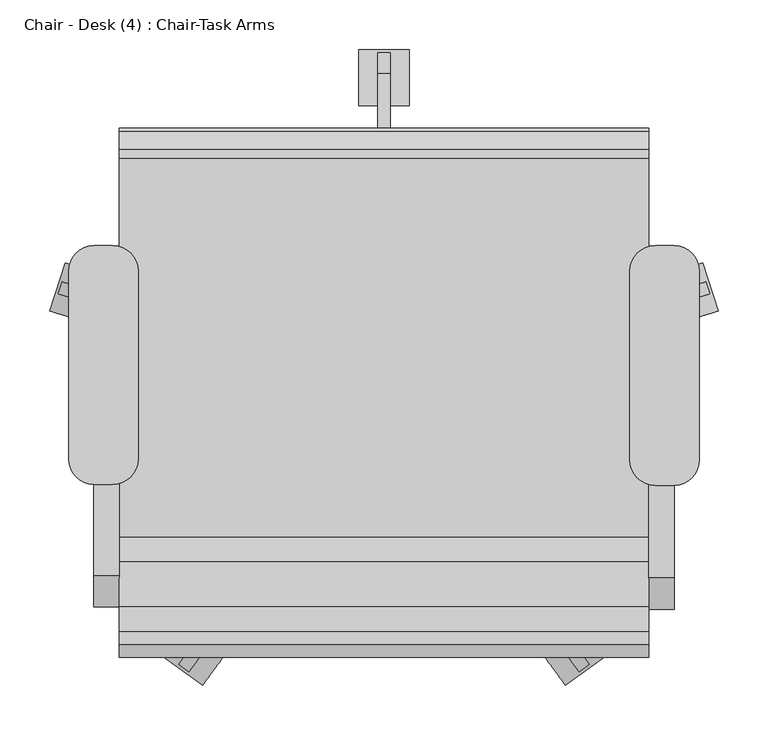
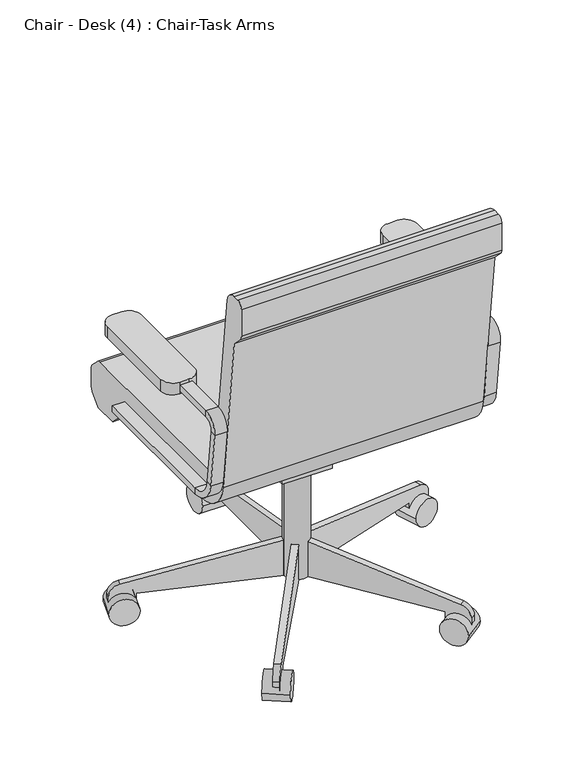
"""IFC4 building model written with IfcOpenShell, lengths in millimetres: furniture geometry, Chair - Desk (4) : Chair-Task Arms."""

from ifc_helpers import new_model, si_unit, point, frame, frame_2d, origin, place, context, project, spatial, polyline, circle_curve, trimmed, segment, composite_curve, outline, extrude, source, transform, mapped, element, save
from ifc_brep_helpers import plane_surface, cylinder_surface, revolved_surface, advanced_brep


def chair_desk_4_chair_task_arms_3b363349(model_context):
    return source(origin(), model_context, "Body", "SolidModel", [
        extrude(outline(composite_curve([segment(polyline([(433.0908197, -74.2028048), (414.0408197, -74.2028048)]), True, "CONTINUOUS"), segment(trimmed(circle_curve(frame_2d((414.0408197, -48.8028048)), 25.4), [point((414.0408197, -74.2028048))], [point((388.6408197, -48.8028048))], False, "CARTESIAN"), True, "CONTINUOUS"), segment(polyline([(388.6408197, -48.8028048), (388.6408197, 141.6319091)]), True, "CONTINUOUS"), segment(trimmed(circle_curve(frame_2d((414.0408197, 141.6319091)), 25.4), [point((388.6408197, 141.6319091))], [point((414.0408197, 167.0319091))], False, "CARTESIAN"), True, "CONTINUOUS"), segment(polyline([(414.0408197, 167.0319091), (433.0908197, 167.0319091)]), True, "CONTINUOUS"), segment(trimmed(circle_curve(frame_2d((433.0908197, 141.6319091)), 25.4), [point((433.0908197, 167.0319091))], [point((458.4908197, 141.6319091))], False, "CARTESIAN"), True, "CONTINUOUS"), segment(polyline([(458.4908197, 141.6319091), (458.4908197, -48.8028048)]), True, "CONTINUOUS"), segment(trimmed(circle_curve(frame_2d((433.0908197, -48.8028048)), 25.4), [point((458.4908197, -48.8028048))], [point((433.0908197, -74.2028048))], False, "CARTESIAN"), True, "CONTINUOUS")], self_intersect=False)), frame((0.0, 0.0, 596.9), z_axis=(0.0, 0.0, 1.0), x_axis=(1.0, 0.0, 0.0)), (0.0, 0.0, 1.0), 25.4),
        extrude(outline(composite_curve([segment(polyline([(-132.0591803, -73.1575984), (-151.1091803, -73.1575984)]), True, "CONTINUOUS"), segment(trimmed(circle_curve(frame_2d((-151.1091803, -47.7575984)), 25.4), [point((-151.1091803, -73.1575984))], [point((-176.5091803, -47.7575984))], False, "CARTESIAN"), True, "CONTINUOUS"), segment(polyline([(-176.5091803, -47.7575984), (-176.5091803, 141.6319091)]), True, "CONTINUOUS"), segment(trimmed(circle_curve(frame_2d((-151.1091803, 141.6319091)), 25.4), [point((-176.5091803, 141.6319091))], [point((-151.1091803, 167.0319091))], False, "CARTESIAN"), True, "CONTINUOUS"), segment(polyline([(-151.1091803, 167.0319091), (-132.0591803, 167.0319091)]), True, "CONTINUOUS"), segment(trimmed(circle_curve(frame_2d((-132.0591803, 141.6319091)), 25.4), [point((-132.0591803, 167.0319091))], [point((-106.6591803, 141.6319091))], False, "CARTESIAN"), True, "CONTINUOUS"), segment(polyline([(-106.6591803, 141.6319091), (-106.6591803, -47.7575984)]), True, "CONTINUOUS"), segment(trimmed(circle_curve(frame_2d((-132.0591803, -47.7575984)), 25.4), [point((-106.6591803, -47.7575984))], [point((-132.0591803, -73.1575984))], False, "CARTESIAN"), True, "CONTINUOUS")], self_intersect=False)), frame((0.0, 0.0, 596.9), z_axis=(0.0, 0.0, 1.0), x_axis=(1.0, 0.0, 0.0)), (0.0, 0.0, 1.0), 25.4),
        advanced_brep(
        [(-151.1091803, 167.0319091, 412.75), (-151.1091803, 167.0319091, 425.45), (-125.7091803, 167.0319091, 425.45), (-125.7091803, 167.0319091, 412.75), (-151.1091803, -126.2388651, 412.75), (-151.1091803, -126.2388651, 425.45), (-125.7091803, -126.2388651, 425.45), (-125.7091803, -126.2388651, 412.75), (-151.1091803, -170.3844094, 464.7064065), (-151.1091803, -182.9974221, 463.2225227), (-125.7091803, -170.3844094, 464.7064065), (-125.7091803, -182.9974221, 463.2225227), (-151.1091803, -196.7936301, 580.4902904), (-151.1091803, -184.1806174, 581.9741742), (-125.7091803, -184.1806174, 581.9741742), (-125.7091803, -196.7936301, 580.4902904), (-151.1091803, -165.2610984, 603.25), (-151.1091803, -165.2610984, 615.95), (-125.7091803, -165.2610984, 603.25), (-125.7091803, -165.2610984, 615.95), (-151.1091803, 18.9459016, 615.95), (-125.7091803, 18.9459016, 615.95), (-125.7091803, 18.9459016, 603.25), (-151.1091803, 18.9459016, 603.25)],
        [
            (0, 1),
            (1, 2),
            (2, 3),
            (3, 0),
            (0, 4),
            (4, 5),
            (5, 1),
            (5, 6),
            (6, 2),
            (6, 7),
            (7, 3),
            (7, 4),
            (8, 5, circle_curve(frame((-151.1091803, -126.2388651, 469.9), z_axis=(1.0, 0.0, 0.0), x_axis=(0.0, 0.0, -1.0)), 44.45)),
            (4, 9, circle_curve(frame((-151.1091803, -126.2388651, 469.9), z_axis=(-1.0, 0.0, 0.0), x_axis=(0.0, 0.0, -1.0)), 57.15)),
            (9, 8),
            (10, 6, circle_curve(frame((-125.7091803, -126.2388651, 469.9), z_axis=(1.0, 0.0, 0.0), x_axis=(0.0, 0.0, -1.0)), 44.45)),
            (8, 10),
            (11, 7, circle_curve(frame((-125.7091803, -126.2388651, 469.9), z_axis=(1.0, 0.0, 0.0), x_axis=(0.0, 0.0, -1.0)), 57.15)),
            (10, 11),
            (11, 9),
            (9, 12),
            (12, 13),
            (13, 8),
            (13, 14),
            (14, 10),
            (14, 15),
            (15, 11),
            (15, 12),
            (16, 13, circle_curve(frame((-151.1091803, -165.2610984, 584.2), z_axis=(1.0, 0.0, 0.0), x_axis=(0.0, -0.9931506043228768, -0.11684124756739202)), 19.05)),
            (12, 17, circle_curve(frame((-151.1091803, -165.2610984, 584.2), z_axis=(-1.0, 0.0, 0.0), x_axis=(0.0, -0.9931506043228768, -0.11684124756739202)), 31.75)),
            (17, 16),
            (18, 14, circle_curve(frame((-125.7091803, -165.2610984, 584.2), z_axis=(1.0, 0.0, 0.0), x_axis=(0.0, -0.9931506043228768, -0.11684124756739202)), 19.05)),
            (16, 18),
            (19, 15, circle_curve(frame((-125.7091803, -165.2610984, 584.2), z_axis=(1.0, 0.0, 0.0), x_axis=(0.0, -0.9931506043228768, -0.11684124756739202)), 31.75)),
            (18, 19),
            (19, 17),
            (20, 21),
            (21, 22),
            (22, 23),
            (23, 20),
            (17, 20),
            (23, 16),
            (22, 18),
            (21, 19),
        ],
        [
            plane_surface(frame((-152.608212, 167.0319091, 419.1), z_axis=(0.0, 1.0, 0.0), x_axis=(0.0, 0.0, -1.0))),
            plane_surface(frame((-151.1091803, 167.0319091, 412.75), z_axis=(-1.0, 0.0, 0.0), x_axis=(0.0, -1.0, 0.0))),
            plane_surface(frame((-151.1091803, 167.0319091, 425.45), z_axis=(0.0, 0.0, 1.0), x_axis=(0.0, -1.0, 0.0))),
            plane_surface(frame((-125.7091803, 167.0319091, 425.45), z_axis=(1.0, 0.0, 0.0), x_axis=(0.0, -1.0, 0.0))),
            plane_surface(frame((-125.7091803, 167.0319091, 412.75), z_axis=(0.0, 0.0, -1.0), x_axis=(0.0, -1.0, 0.0))),
            plane_surface(frame((-151.1091803, -126.2388651, 469.9), z_axis=(-1.0, 0.0, 0.0), x_axis=(0.0, 0.0, -1.0))),
            revolved_surface(polyline([(-151.1091803, -126.2388651, 425.45), (-125.7091803, -126.2388651, 425.45)]), (-138.4091803, -126.2388651, 469.9), (-1.0, 0.0, 0.0)),
            plane_surface(frame((-125.7091803, -126.2388651, 469.9), z_axis=(1.0, 0.0, 0.0), x_axis=(0.0, 0.0, -1.0))),
            cylinder_surface(frame((-138.4091803, -126.2388651, 469.9), z_axis=(-1.0, 0.0, 0.0), x_axis=(0.0, 0.0, -1.0)), 57.15),
            plane_surface(frame((-151.1091803, -182.9974221, 463.2225227), z_axis=(-1.0, 0.0, 0.0), x_axis=(0.0, -0.1168412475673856, 0.9931506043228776))),
            plane_surface(frame((-151.1091803, -170.3844094, 464.7064065), z_axis=(0.0, 0.9931506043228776, 0.1168412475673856), x_axis=(0.0, -0.1168412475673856, 0.9931506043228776))),
            plane_surface(frame((-125.7091803, -170.3844094, 464.7064065), z_axis=(1.0, 0.0, 0.0), x_axis=(0.0, -0.1168412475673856, 0.9931506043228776))),
            plane_surface(frame((-125.7091803, -182.9974221, 463.2225227), z_axis=(0.0, -0.9931506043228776, -0.1168412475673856), x_axis=(0.0, -0.1168412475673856, 0.9931506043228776))),
            plane_surface(frame((-151.1091803, -165.2610984, 584.2), z_axis=(-1.0, 0.0, 0.0), x_axis=(0.0, -0.9931506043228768, -0.11684124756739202))),
            revolved_surface(polyline([(-151.1091803, -184.1806174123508, 581.9741742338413), (-125.7091803, -184.1806174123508, 581.9741742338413)]), (-138.4091803, -165.2610984, 584.2), (-1.0, 0.0, 0.0)),
            plane_surface(frame((-125.7091803, -165.2610984, 584.2), z_axis=(1.0, 0.0, 0.0), x_axis=(0.0, -0.9931506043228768, -0.11684124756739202))),
            cylinder_surface(frame((-138.4091803, -165.2610984, 584.2), z_axis=(-1.0, 0.0, 0.0), x_axis=(0.0, -0.9931506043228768, -0.11684124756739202)), 31.75),
            plane_surface(frame((-152.608212, 18.9459016, 609.6), z_axis=(0.0, 1.0, 0.0), x_axis=(0.0, 0.0, 1.0))),
            plane_surface(frame((-151.1091803, -165.2610984, 615.95), z_axis=(-1.0, 0.0, 0.0), x_axis=(0.0, 1.0, 0.0))),
            plane_surface(frame((-151.1091803, -165.2610984, 603.25), z_axis=(0.0, 0.0, -1.0), x_axis=(0.0, 1.0, 0.0))),
            plane_surface(frame((-125.7091803, -165.2610984, 603.25), z_axis=(1.0, 0.0, 0.0), x_axis=(0.0, 1.0, 0.0))),
            plane_surface(frame((-125.7091803, -165.2610984, 615.95), z_axis=(0.0, 0.0, 1.0), x_axis=(0.0, 1.0, 0.0))),
        ],
        [
            (0, [[1, 2, 3, 4]]),
            (1, [[-1, 5, 6, 7]]),
            (2, [[-2, -7, 8, 9]]),
            (3, [[-3, -9, 10, 11]]),
            (4, [[-4, -11, 12, -5]]),
            (5, [[13, -6, 14, 15]]),
            (6, [[16, -8, -13, 17]]),
            (7, [[18, -10, -16, 19]]),
            (8, [[-14, -12, -18, 20]]),
            (9, [[-15, 21, 22, 23]]),
            (10, [[-17, -23, 24, 25]]),
            (11, [[-19, -25, 26, 27]]),
            (12, [[-20, -27, 28, -21]]),
            (13, [[29, -22, 30, 31]]),
            (14, [[32, -24, -29, 33]]),
            (15, [[34, -26, -32, 35]]),
            (16, [[-30, -28, -34, 36]]),
            (17, [[37, 38, 39, 40]]),
            (18, [[-31, 41, -40, 42]]),
            (19, [[-33, -42, -39, 43]]),
            (20, [[-35, -43, -38, 44]]),
            (21, [[-36, -44, -37, -41]]),
        ],
    ),
        advanced_brep(
        [(433.0908197, 167.0319091, 425.45), (433.0908197, 167.0319091, 412.75), (407.6908197, 167.0319091, 412.75), (407.6908197, 167.0319091, 425.45), (433.0908197, -128.329278, 425.45), (433.0908197, -128.329278, 412.75), (407.6908197, -128.329278, 412.75), (407.6908197, -128.329278, 425.45), (433.0908197, -185.0878351, 463.2225227), (433.0908197, -172.4748224, 464.7064065), (407.6908197, -185.0878351, 463.2225227), (407.6908197, -172.4748224, 464.7064065), (433.0908197, -186.2710303, 581.9741742), (433.0908197, -198.884043, 580.4902904), (407.6908197, -198.884043, 580.4902904), (407.6908197, -186.2710303, 581.9741742), (433.0908197, -167.3515113, 615.95), (433.0908197, -167.3515113, 603.25), (407.6908197, -167.3515113, 615.95), (407.6908197, -167.3515113, 603.25), (433.0908197, 18.9459016, 603.25), (407.6908197, 18.9459016, 603.25), (407.6908197, 18.9459016, 615.95), (433.0908197, 18.9459016, 615.95)],
        [
            (0, 1),
            (1, 2),
            (2, 3),
            (3, 0),
            (0, 4),
            (4, 5),
            (5, 1),
            (5, 6),
            (6, 2),
            (6, 7),
            (7, 3),
            (7, 4),
            (8, 5, circle_curve(frame((433.0908197, -128.329278, 469.9), z_axis=(1.0, 0.0, 0.0), x_axis=(0.0, 0.0, -1.0)), 57.15)),
            (4, 9, circle_curve(frame((433.0908197, -128.329278, 469.9), z_axis=(-1.0, 0.0, 0.0), x_axis=(0.0, 0.0, -1.0)), 44.45)),
            (9, 8),
            (10, 6, circle_curve(frame((407.6908197, -128.329278, 469.9), z_axis=(1.0, 0.0, 0.0), x_axis=(0.0, 0.0, -1.0)), 57.15)),
            (8, 10),
            (11, 7, circle_curve(frame((407.6908197, -128.329278, 469.9), z_axis=(1.0, 0.0, 0.0), x_axis=(0.0, 0.0, -1.0)), 44.45)),
            (10, 11),
            (11, 9),
            (9, 12),
            (12, 13),
            (13, 8),
            (13, 14),
            (14, 10),
            (14, 15),
            (15, 11),
            (15, 12),
            (16, 13, circle_curve(frame((433.0908197, -167.3515113, 584.2), z_axis=(1.0, 0.0, 0.0), x_axis=(0.0, -0.9931506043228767, -0.1168412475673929)), 31.75)),
            (12, 17, circle_curve(frame((433.0908197, -167.3515113, 584.2), z_axis=(-1.0, 0.0, 0.0), x_axis=(0.0, -0.9931506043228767, -0.1168412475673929)), 19.05)),
            (17, 16),
            (18, 14, circle_curve(frame((407.6908197, -167.3515113, 584.2), z_axis=(1.0, 0.0, 0.0), x_axis=(0.0, -0.9931506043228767, -0.1168412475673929)), 31.75)),
            (16, 18),
            (19, 15, circle_curve(frame((407.6908197, -167.3515113, 584.2), z_axis=(1.0, 0.0, 0.0), x_axis=(0.0, -0.9931506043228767, -0.1168412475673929)), 19.05)),
            (18, 19),
            (19, 17),
            (20, 21),
            (21, 22),
            (22, 23),
            (23, 20),
            (17, 20),
            (23, 16),
            (22, 18),
            (21, 19),
        ],
        [
            plane_surface(frame((406.191788, 167.0319091, 419.1), z_axis=(0.0, 1.0, 0.0), x_axis=(0.0, 0.0, -1.0))),
            plane_surface(frame((433.0908197, 167.0319091, 425.45), z_axis=(1.0, 0.0, 0.0), x_axis=(0.0, -1.0, 0.0))),
            plane_surface(frame((433.0908197, 167.0319091, 412.75), z_axis=(0.0, 0.0, -1.0), x_axis=(0.0, -1.0, 0.0))),
            plane_surface(frame((407.6908197, 167.0319091, 412.75), z_axis=(-1.0, 0.0, 0.0), x_axis=(0.0, -1.0, 0.0))),
            plane_surface(frame((407.6908197, 167.0319091, 425.45), z_axis=(0.0, 0.0, 1.0), x_axis=(0.0, -1.0, 0.0))),
            plane_surface(frame((433.0908197, -128.329278, 469.9), z_axis=(1.0, 0.0, 0.0), x_axis=(0.0, 0.0, -1.0))),
            cylinder_surface(frame((420.3908197, -128.329278, 469.9), z_axis=(-1.0, 0.0, 0.0), x_axis=(0.0, 0.0, -1.0)), 57.15),
            plane_surface(frame((407.6908197, -128.329278, 469.9), z_axis=(-1.0, 0.0, 0.0), x_axis=(0.0, 0.0, -1.0))),
            revolved_surface(polyline([(407.6908197, -128.329278, 425.45), (433.0908197, -128.329278, 425.45)]), (420.3908197, -128.329278, 469.9), (-1.0, 0.0, 0.0)),
            plane_surface(frame((433.0908197, -172.4748224, 464.7064065), z_axis=(1.0, 0.0, 0.0), x_axis=(0.0, -0.11684124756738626, 0.9931506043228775))),
            plane_surface(frame((433.0908197, -185.0878351, 463.2225227), z_axis=(0.0, -0.9931506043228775, -0.11684124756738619), x_axis=(0.0, -0.11684124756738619, 0.9931506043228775))),
            plane_surface(frame((407.6908197, -185.0878351, 463.2225227), z_axis=(-1.0, 0.0, 0.0), x_axis=(0.0, -0.11684124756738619, 0.9931506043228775))),
            plane_surface(frame((407.6908197, -172.4748224, 464.7064065), z_axis=(0.0, 0.9931506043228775, 0.11684124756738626), x_axis=(0.0, -0.11684124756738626, 0.9931506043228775))),
            plane_surface(frame((433.0908197, -167.3515113, 584.2), z_axis=(1.0, 0.0, 0.0), x_axis=(0.0, -0.9931506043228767, -0.1168412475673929))),
            cylinder_surface(frame((420.3908197, -167.3515113, 584.2), z_axis=(-1.0, 0.0, 0.0), x_axis=(0.0, -0.9931506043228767, -0.1168412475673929)), 31.75),
            plane_surface(frame((407.6908197, -167.3515113, 584.2), z_axis=(-1.0, 0.0, 0.0), x_axis=(0.0, -0.9931506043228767, -0.1168412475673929))),
            revolved_surface(polyline([(407.6908197, -186.2710303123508, 581.9741742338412), (433.0908197, -186.2710303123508, 581.9741742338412)]), (420.3908197, -167.3515113, 584.2), (-1.0, 0.0, 0.0)),
            plane_surface(frame((406.191788, 18.9459016, 609.6), z_axis=(0.0, 1.0, 0.0), x_axis=(0.0, 0.0, 1.0))),
            plane_surface(frame((433.0908197, -167.3515113, 603.25), z_axis=(1.0, 0.0, 0.0), x_axis=(0.0, 1.0, 0.0))),
            plane_surface(frame((433.0908197, -167.3515113, 615.95), z_axis=(0.0, 0.0, 1.0), x_axis=(0.0, 1.0, 0.0))),
            plane_surface(frame((407.6908197, -167.3515113, 615.95), z_axis=(-1.0, 0.0, 0.0), x_axis=(0.0, 1.0, 0.0))),
            plane_surface(frame((407.6908197, -167.3515113, 603.25), z_axis=(0.0, 0.0, -1.0), x_axis=(0.0, 1.0, 0.0))),
        ],
        [
            (0, [[1, 2, 3, 4]]),
            (1, [[-1, 5, 6, 7]]),
            (2, [[-2, -7, 8, 9]]),
            (3, [[-3, -9, 10, 11]]),
            (4, [[-4, -11, 12, -5]]),
            (5, [[13, -6, 14, 15]]),
            (6, [[16, -8, -13, 17]]),
            (7, [[18, -10, -16, 19]]),
            (8, [[-14, -12, -18, 20]]),
            (9, [[-15, 21, 22, 23]]),
            (10, [[-17, -23, 24, 25]]),
            (11, [[-19, -25, 26, 27]]),
            (12, [[-20, -27, 28, -21]]),
            (13, [[29, -22, 30, 31]]),
            (14, [[32, -24, -29, 33]]),
            (15, [[34, -26, -32, 35]]),
            (16, [[-30, -28, -34, 36]]),
            (17, [[37, 38, 39, 40]]),
            (18, [[-31, 41, -40, 42]]),
            (19, [[-33, -42, -39, 43]]),
            (20, [[-35, -43, -38, 44]]),
            (21, [[-36, -44, -37, -41]]),
        ],
    ),
        extrude(outline(composite_curve([segment(trimmed(circle_curve(frame_2d((140.9908197, 18.9459016)), 25.4), [point((115.5908197, 18.9459016))], [point((166.3908197, 18.9459016))], False, "CARTESIAN"), True, "CONTINUOUS"), segment(trimmed(circle_curve(frame_2d((140.9908197, 18.9459016)), 25.4), [point((166.3908197, 18.9459016))], [point((115.5908197, 18.9459016))], False, "CARTESIAN"), True, "CONTINUOUS")], self_intersect=False)), frame((0.0, 0.0, 53.5835944), z_axis=(0.0, 0.0, 1.0), x_axis=(1.0, 0.0, 0.0)), (0.0, 0.0, 1.0), 330.5914056),
        extrude(outline(composite_curve([segment(trimmed(circle_curve(frame_2d((0.0, -28.2002727)), 28.2002727), [point((0.0, -56.4005455))], [point((0.0, 0.0))], False, "CARTESIAN"), True, "CONTINUOUS"), segment(trimmed(circle_curve(frame_2d((0.0, -28.2002727)), 28.2002727), [point((0.0, 0.0))], [point((0.0, -56.4005455))], False, "CARTESIAN"), True, "CONTINUOUS")], self_intersect=False)), frame((477.6203484, 101.6163254, 28.1835944), z_axis=(-0.3090169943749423, 0.9510565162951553, 0.0), x_axis=(0.0, 0.0, 1.0)), (0.0, 0.0, 1.0), 50.8),
        extrude(outline(composite_curve([segment(polyline([(-25.4, 0.0), (0.0, 0.0), (0.0, -50.8), (-24.303053, -50.8)]), True, "CONTINUOUS"), segment(trimmed(circle_curve(frame_2d((-24.303053, -25.4)), 25.4), [point((-24.303053, -50.8))], [point((-49.3171699, -29.8106637))], False, "CARTESIAN"), True, "CONTINUOUS"), segment(polyline([(-49.3171699, -29.8106637), (-101.6, 266.7), (-101.6, 292.1), (-25.4, 292.1), (-25.4, 0.0)]), True, "CONTINUOUS")], self_intersect=False)), frame((420.756686, 103.1705568, 28.1835944), z_axis=(-0.3090169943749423, 0.9510565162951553, 0.0), x_axis=(0.0, 0.0, -1.0)), (0.0, 0.0, 1.0), 12.7),
        extrude(outline(composite_curve([segment(trimmed(circle_curve(frame_2d((0.0, -28.2002727)), 28.2002727), [point((0.0, -56.4005455))], [point((0.0, 0.0))], False, "CARTESIAN"), True, "CONTINUOUS"), segment(trimmed(circle_curve(frame_2d((0.0, -28.2002727)), 28.2002727), [point((0.0, 0.0))], [point((0.0, -56.4005455))], False, "CARTESIAN"), True, "CONTINUOUS")], self_intersect=False)), frame((323.63931, -275.6612394, 28.1835944), z_axis=(0.8090169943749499, 0.5877852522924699, 0.0), x_axis=(0.0, 0.0, 1.0)), (0.0, 0.0, 1.0), 50.8),
        extrude(outline(composite_curve([segment(polyline([(-25.4, 0.0), (0.0, 0.0), (0.0, -50.8), (-24.303053, -50.8)]), True, "CONTINUOUS"), segment(trimmed(circle_curve(frame_2d((-24.303053, -25.3999999)), 25.4), [point((-24.303053, -50.8))], [point((-49.3171699, -29.8106636))], False, "CARTESIAN"), True, "CONTINUOUS"), segment(polyline([(-49.3171699, -29.8106636), (-101.6, 266.7), (-101.6, 292.1), (-25.4, 292.1), (-25.4, 0.0)]), True, "CONTINUOUS")], self_intersect=False)), frame((307.545634, -221.1003988, 28.1835944), z_axis=(0.8090169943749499, 0.5877852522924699, 0.0), x_axis=(0.0, 0.0, -1.0)), (0.0, 0.0, 1.0), 12.7),
        extrude(outline(composite_curve([segment(trimmed(circle_curve(frame_2d((0.0, -28.2002727)), 28.2002727), [point((0.0, -56.4005455))], [point((0.0, 0.0))], False, "CARTESIAN"), True, "CONTINUOUS"), segment(trimmed(circle_curve(frame_2d((0.0, -28.2002727)), 28.2002727), [point((0.0, 0.0))], [point((0.0, -56.4005455))], False, "CARTESIAN"), True, "CONTINUOUS")], self_intersect=False)), frame((-41.6576707, -275.6612394, 28.1835944), z_axis=(-0.8090169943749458, 0.5877852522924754, 0.0), x_axis=(0.0, 0.0, -1.0)), (0.0, 0.0, 1.0), 50.8),
        extrude(outline(composite_curve([segment(polyline([(25.4, 0.0), (25.4, 292.1), (101.6, 292.1), (101.6, 266.7), (49.3171699, -29.8106637)]), True, "CONTINUOUS"), segment(trimmed(circle_curve(frame_2d((24.303053, -25.3999999)), 25.4), [point((49.3171699, -29.8106637))], [point((24.303053, -50.8))], False, "CARTESIAN"), True, "CONTINUOUS"), segment(polyline([(24.303053, -50.8), (0.0, -50.8), (0.0, 0.0), (25.4, 0.0)]), True, "CONTINUOUS")], self_intersect=False)), frame((-25.5639946, -221.1003988, 28.1835944), z_axis=(-0.8090169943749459, 0.5877852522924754, 0.0), x_axis=(0.0, 0.0, 1.0)), (0.0, 0.0, 1.0), 12.7),
        extrude(outline(composite_curve([segment(trimmed(circle_curve(frame_2d((0.0, -28.2002727)), 28.2002727), [point((0.0, -56.4005454))], [point((0.0, 0.0))], False, "CARTESIAN"), True, "CONTINUOUS"), segment(trimmed(circle_curve(frame_2d((0.0, -28.2002727)), 28.2002727), [point((0.0, 0.0))], [point((0.0, -56.4005454))], False, "CARTESIAN"), True, "CONTINUOUS")], self_intersect=False)), frame((-195.638709, 101.6163254, 28.1835944), z_axis=(0.3090169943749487, 0.9510565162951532, 0.0), x_axis=(0.0, 0.0, -1.0)), (0.0, 0.0, 1.0), 50.8),
        extrude(outline(composite_curve([segment(polyline([(25.4, 0.0), (25.4, 292.1000001), (101.6, 292.1000001), (101.6, 266.7), (49.3171699, -29.8106636)]), True, "CONTINUOUS"), segment(trimmed(circle_curve(frame_2d((24.303053, -25.4)), 25.4), [point((49.3171699, -29.8106636))], [point((24.303053, -50.8))], False, "CARTESIAN"), True, "CONTINUOUS"), segment(polyline([(24.303053, -50.8), (0.0, -50.8), (0.0, 0.0), (25.4, 0.0)]), True, "CONTINUOUS")], self_intersect=False)), frame((-138.7750467, 103.1705568, 28.1835944), z_axis=(0.3090169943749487, 0.9510565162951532, 0.0), x_axis=(0.0, 0.0, 1.0)), (0.0, 0.0, 1.0), 12.7),
        extrude(outline(composite_curve([segment(trimmed(circle_curve(frame_2d((336.4459016, 28.1835944)), 28.2002727), [point((308.2456289, 28.1835944))], [point((364.6461744, 28.1835944))], False, "CARTESIAN"), True, "CONTINUOUS"), segment(trimmed(circle_curve(frame_2d((336.4459016, 28.1835944)), 28.2002727), [point((364.6461744, 28.1835944))], [point((308.2456289, 28.1835944))], False, "CARTESIAN"), True, "CONTINUOUS")], self_intersect=False)), frame((115.5908197, 0.0, 0.0), z_axis=(1.0, 0.0, 0.0), x_axis=(0.0, 1.0, 0.0)), (0.0, 0.0, 1.0), 50.8),
        extrude(outline(composite_curve([segment(polyline([(311.0459016, 53.5835944), (18.9459016, 53.5835944), (18.9459016, 129.7835944), (44.3459016, 129.7835944), (340.8565654, 77.5007643)]), True, "CONTINUOUS"), segment(trimmed(circle_curve(frame_2d((336.4459016, 52.4866474)), 25.4), [point((340.8565654, 77.5007643))], [point((361.8459016, 52.4866474))], False, "CARTESIAN"), True, "CONTINUOUS"), segment(polyline([(361.8459016, 52.4866474), (361.8459016, 28.1835944), (311.0459016, 28.1835944), (311.0459016, 53.5835944)]), True, "CONTINUOUS")], self_intersect=False)), frame((134.6408197, 0.0, 0.0), z_axis=(1.0, 0.0, 0.0), x_axis=(0.0, 1.0, 0.0)), (0.0, 0.0, 1.0), 12.7),
        extrude(outline(polyline([(69.7459016, 383.7835944), (69.7459016, 371.0835944), (18.9459016, 283.0954134), (-19.1540984, 283.0954134), (-19.1540984, 383.7835944), (69.7459016, 383.7835944)])), frame((90.1908197, 0.0, 0.0), z_axis=(1.0, 0.0, 0.0), x_axis=(0.0, 1.0, 0.0)), (0.0, 0.0, 1.0), 101.6),
        extrude(outline(composite_curve([segment(polyline([(-126.2050455, 457.2), (255.0102301, 457.2)]), True, "CONTINUOUS"), segment(trimmed(circle_curve(frame_2d((255.0102301, 444.5)), 12.7), [point((255.0102301, 457.2))], [point((263.9604301, 453.510212))], False, "CARTESIAN"), True, "CONTINUOUS"), segment(polyline([(263.9604301, 453.510212), (281.8961016, 435.6939999)]), True, "CONTINUOUS"), segment(trimmed(circle_curve(frame_2d((272.9459016, 426.6837879)), 12.7), [point((281.8961016, 435.6939999))], [point((285.6459016, 426.6837879))], False, "CARTESIAN"), True, "CONTINUOUS"), segment(polyline([(285.6459016, 426.6837879), (285.6459016, 391.6405184)]), True, "CONTINUOUS"), segment(trimmed(circle_curve(frame_2d((260.2459016, 391.6405184)), 25.4), [point((285.6459016, 391.6405184))], [point((278.2663256, 373.7401184))], False, "CARTESIAN"), True, "CONTINUOUS"), segment(polyline([(278.2663256, 373.7401184), (260.2470284, 355.6), (209.4470284, 355.6), (181.0744602, 383.7835944), (-107.1089978, 383.7835944)]), True, "CONTINUOUS"), segment(trimmed(circle_curve(frame_2d((-107.1089978, 459.9835944)), 76.2), [point((-107.1089978, 383.7835944))], [point((-182.7870738, 451.0802913))], False, "CARTESIAN"), True, "CONTINUOUS"), segment(polyline([(-182.7870738, 451.0802913), (-222.3540984, 787.4), (-244.0343545, 809.0802561)]), True, "CONTINUOUS"), segment(trimmed(circle_curve(frame_2d((-235.0540984, 818.0605122)), 12.7), [point((-244.0343545, 809.0802561))], [point((-247.7540984, 818.0605122))], False, "CARTESIAN"), True, "CONTINUOUS"), segment(polyline([(-247.7540984, 818.0605122), (-247.7540984, 876.3)]), True, "CONTINUOUS"), segment(trimmed(circle_curve(frame_2d((-235.0540984, 876.3)), 12.7), [point((-247.7540984, 876.3))], [point((-235.0540984, 889.0))], False, "CARTESIAN"), True, "CONTINUOUS"), segment(polyline([(-235.0540984, 889.0), (-222.1789239, 889.0)]), True, "CONTINUOUS"), segment(trimmed(circle_curve(frame_2d((-222.1789239, 863.6)), 25.4), [point((-222.1789239, 889.0))], [point((-196.9528985, 866.5677677))], False, "CARTESIAN"), True, "CONTINUOUS"), segment(polyline([(-196.9528985, 866.5677677), (-151.4310708, 479.6322323)]), True, "CONTINUOUS"), segment(trimmed(circle_curve(frame_2d((-126.2050455, 482.6)), 25.4), [point((-151.4310708, 479.6322323))], [point((-126.2050455, 457.2))], True, "CARTESIAN"), True, "CONTINUOUS")], self_intersect=False)), frame((-125.7091803, 0.0, 0.0), z_axis=(1.0, 0.0, 0.0), x_axis=(0.0, 1.0, 0.0)), (0.0, 0.0, 1.0), 533.4),
    ])


if __name__ == "__main__":
    model = new_model("IFC4")
    model_context = context("Model", 3, world=origin())
    ifc_project = project(units=[si_unit("LENGTHUNIT", "METRE", prefix="MILLI")], contexts=[model_context])
    site = spatial("IfcSite", under=ifc_project)
    building = spatial("IfcBuilding", under=site)
    placement = place(None, origin())
    chair_desk_4_chair_task_arms_shape = chair_desk_4_chair_task_arms_3b363349(model_context)
    element("IfcFurniture", 1, ObjectType="Chair - Desk (4) : Chair-Task Arms", at=placement, inside=building, context=model_context, shape_type="MappedRepresentation", body=[
        mapped(chair_desk_4_chair_task_arms_shape, transform((0.0, 0.0, 0.0), x_axis=(1.0, 0.0, 0.0), y_axis=(0.0, 1.0, 0.0), z_axis=(0.0, 0.0, 1.0))),
    ])
    save(model, "model.ifc")
